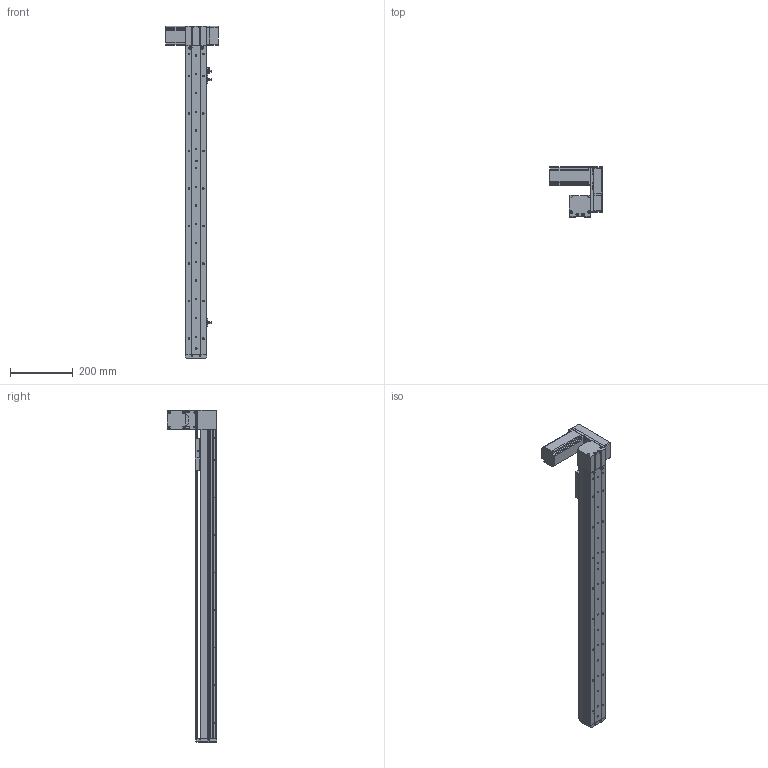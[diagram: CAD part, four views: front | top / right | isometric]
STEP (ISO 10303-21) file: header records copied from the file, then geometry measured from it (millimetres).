
FILE_DESCRIPTION (( 'STEP AP214' ), '1' );
FILE_NAME ('KSD68BS-S800-MLU-CM.STEP', '2019-08-22T02:36:52', ( '微软用户' ), ( '微软中国' ), 'SwSTEP 2.0', 'SolidWorks 2014', '' );
FILE_SCHEMA (( 'AUTOMOTIVE_DESIGN' ));
Length unit declared in the file: millimetre
Products named in the file (11): 悵誘欶奻狟殏; 68宽马达安装板连板上折同步带; 68宽单导轨半封闭同步带主动轮座左; 68单导轨同步带半封闭端板; KSD68BS 800俴最裔啣圉猾敕; 覜茼え68遵圉猾敕; KSD68BS半封闭同步带传动导轨座; U倰嫖萇EEㄜSX672; 台达ECMA－C20604AS伺服电机（400W); KSD68BS 800俴最菁啣圉猾敕; KSD68BS-S800-MLU-CM
Assembly tree (12 placements, depth 2):
  KSD68BS-S800-MLU-CM
    KSD68BS 800俴最菁啣圉猾敕
    台达ECMA－C20604AS伺服电机（400W)
    U倰嫖萇EEㄜSX672  x3
    KSD68BS半封闭同步带传动导轨座
    覜茼え68遵圉猾敕
    KSD68BS 800俴最裔啣圉猾敕
    68单导轨同步带半封闭端板
    68宽单导轨半封闭同步带主动轮座左
    68宽马达安装板连板上折同步带
    悵誘欶奻狟殏
Bounding box: 167.2 x 159.5 x 1062 mm (x, y, z)
Volume: 2117984.4 mm3; surface area: 729094.2 mm2
Topology: 13 solids, 13 shells, 1370 faces, 3932 edges, 2556 vertices
Faces by surface type: cylinder 682, plane 605, cone 83
Entity records: 50254 total; most frequent: CARTESIAN_POINT 9562, ORIENTED_EDGE 6616, DIRECTION 6544, EDGE_CURVE 3308, AXIS2_PLACEMENT_3D 2346, VERTEX_POINT 2180, VECTOR 1852, LINE 1852
